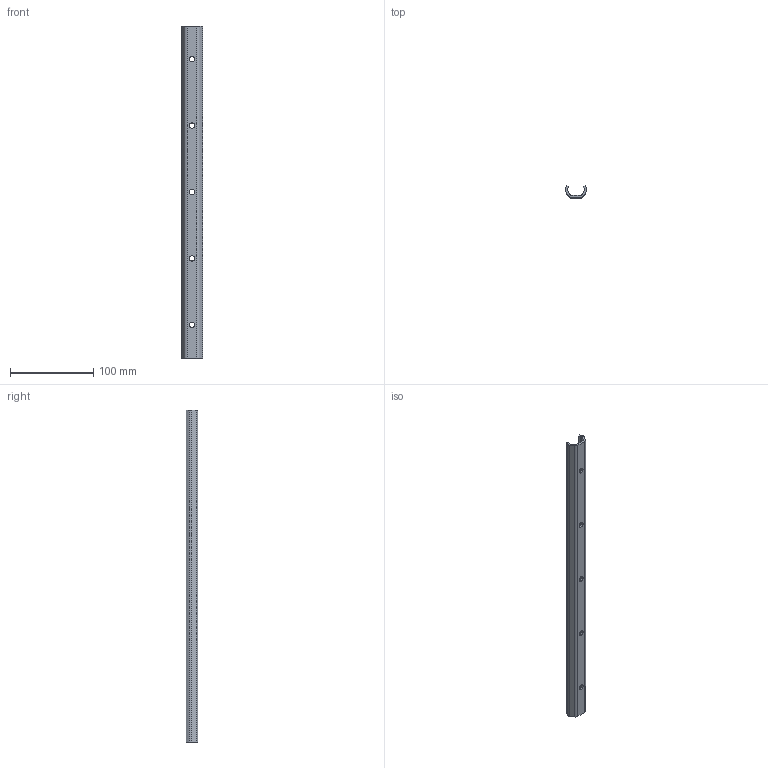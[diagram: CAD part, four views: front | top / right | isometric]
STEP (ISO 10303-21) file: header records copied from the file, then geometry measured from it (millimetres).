
FILE_DESCRIPTION(('STEP AP214'),'1');
FILE_NAME('rail_tex26-400.stp','2019-03-08T08:28:46',('TraceParts'),('TraceParts S.A.'),'Spatial InterOp 3D',' ',' ');
FILE_SCHEMA(('automotive_design'));
Length unit declared in the file: millimetre
Products named in the file (1): rail_tex26-400
Bounding box: 26.06 x 14 x 400 mm (x, y, z)
Volume: 41403.9 mm3; surface area: 35447.5 mm2
Topology: 1 solids, 1 shells, 127 faces, 333 edges, 222 vertices
Faces by surface type: plane 87, cylinder 22, bspline 18
Entity records: 7720 total; most frequent: CARTESIAN_POINT 3597, ORIENTED_EDGE 666, DIRECTION 561, EDGE_CURVE 333, LINE 253, VECTOR 253, VERTEX_POINT 222, AXIS2_PLACEMENT_3D 154
